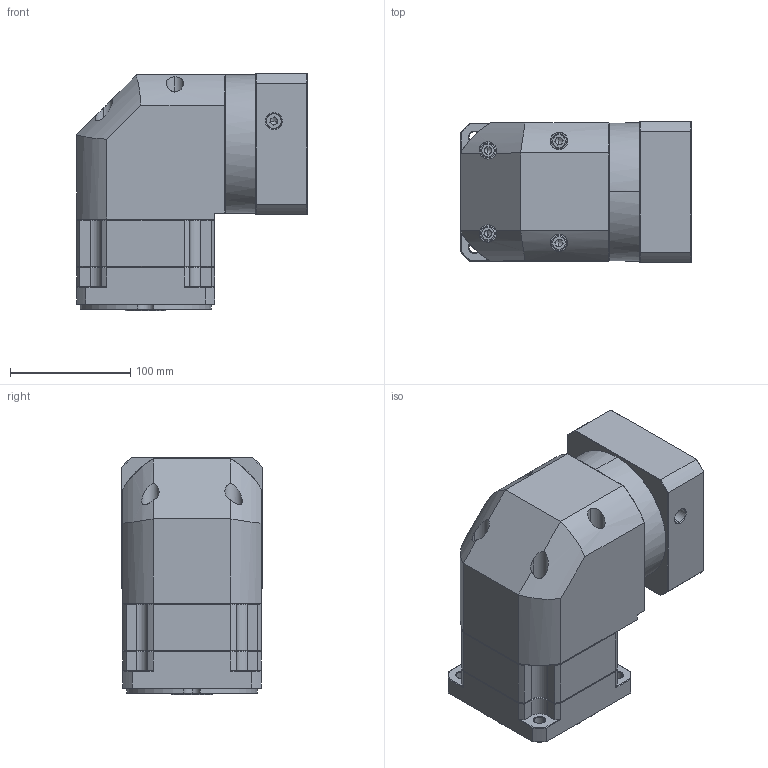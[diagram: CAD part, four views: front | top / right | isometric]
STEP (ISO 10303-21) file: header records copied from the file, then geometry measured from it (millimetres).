
FILE_DESCRIPTION (( 'STEP AP214' ), '1' );
FILE_NAME ('ZBR115A-K25-L1-P2-22-95-115-M8.step', '2023-08-26T12:42:32', ( '' ), ( '' ), 'SwSTEP 2.0', 'SolidWorks 2016', '' );
FILE_SCHEMA (( 'AUTOMOTIVE_DESIGN' ));
Length unit declared in the file: millimetre
Products named in the file (1): ZBR115A-K25-L1-P2-22-95-115-M8
Bounding box: 192.4 x 118 x 198 mm (x, y, z)
Volume: 2915585.9 mm3; surface area: 244124.1 mm2
Topology: 6 solids, 6 shells, 2325 faces, 6090 edges, 3869 vertices
Faces by surface type: plane 1132, bspline 416, cylinder 406, cone 363, torus 8
Entity records: 122698 total; most frequent: CARTESIAN_POINT 43290, ORIENTED_EDGE 12124, DIRECTION 9598, EDGE_CURVE 6062, VECTOR 3938, LINE 3938, VERTEX_POINT 3869, AXIS2_PLACEMENT_3D 2830
